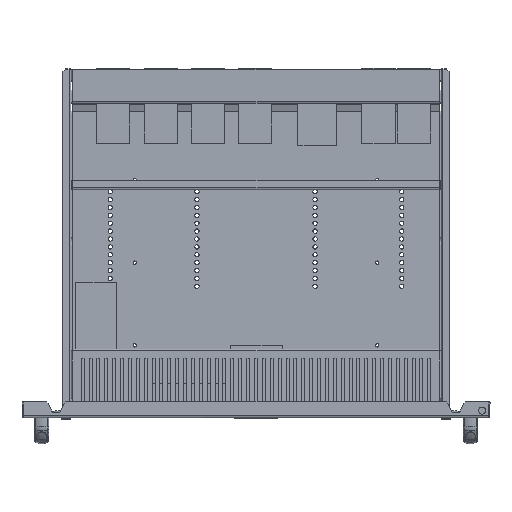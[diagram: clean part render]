
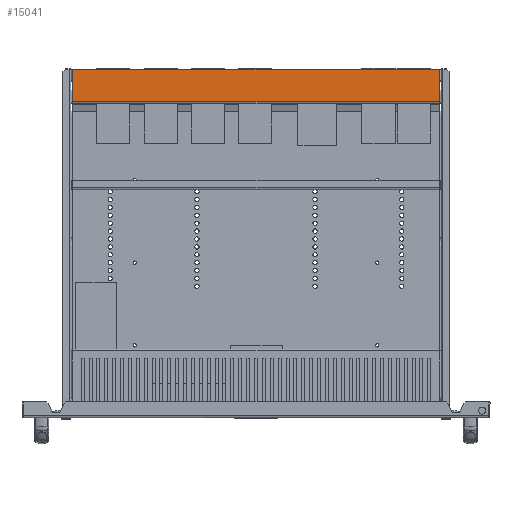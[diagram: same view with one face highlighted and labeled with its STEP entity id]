
A CAD part, top view. The second image highlights one B-rep face of the part: STEP entity #15041.
In plain terms, the highlighted planar face has unit normal (0, 0, 1) as drawn and (0, 1, 0) by its records, which use the part's own axes.
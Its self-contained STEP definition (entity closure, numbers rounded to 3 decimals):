
#11176=CARTESIAN_POINT(' ',(232.793,57.5,-2.1));
#11181=DIRECTION(' ',(-1.,0.,0.));
#11186=VECTOR(' ',#11181,1.);
#11191=LINE('',#11176,#11186);
#11196=CARTESIAN_POINT(' ',(232.793,57.5,-2.1));
#11197=VERTEX_POINT(' ',#11196);
#11201=CARTESIAN_POINT(' ',(-232.793,57.5,-2.1));
#11202=VERTEX_POINT(' ',#11201);
#11206=EDGE_CURVE(' ',#11197,#11202,#11191,.T.);
#14831=DIRECTION(' ',(-0.,1.,0.));
#14836=CARTESIAN_POINT(' ',(-232.793,57.5,-43.5));
#14841=DIRECTION(' ',(0.,0.,1.));
#14846=AXIS2_PLACEMENT_3D(' ',#14836,#14831,#14841);
#14851=PLANE('NONE',#14846);
#14856=ORIENTED_EDGE(' ',*,*,#11206,.F.);
#14861=CARTESIAN_POINT(' ',(232.793,57.5,-2.1));
#14866=DIRECTION(' ',(0.,0.,-1.));
#14871=VECTOR(' ',#14866,1.);
#14876=LINE('',#14861,#14871);
#14881=CARTESIAN_POINT(' ',(232.793,57.5,-28.5));
#14882=VERTEX_POINT(' ',#14881);
#14886=EDGE_CURVE(' ',#11197,#14882,#14876,.T.);
#14891=ORIENTED_EDGE(' ',*,*,#14886,.T.);
#14896=CARTESIAN_POINT(' ',(232.793,57.5,-28.5));
#14901=DIRECTION(' ',(0.,0.,-1.));
#14906=VECTOR(' ',#14901,1.);
#14911=LINE('',#14896,#14906);
#14916=CARTESIAN_POINT(' ',(232.793,57.5,-43.5));
#14917=VERTEX_POINT(' ',#14916);
#14921=EDGE_CURVE(' ',#14882,#14917,#14911,.T.);
#14926=ORIENTED_EDGE(' ',*,*,#14921,.T.);
#14931=CARTESIAN_POINT(' ',(232.793,57.5,-43.5));
#14936=DIRECTION(' ',(-1.,0.,0.));
#14941=VECTOR(' ',#14936,1.);
#14946=LINE('',#14931,#14941);
#14951=CARTESIAN_POINT(' ',(-232.793,57.5,-43.5));
#14952=VERTEX_POINT(' ',#14951);
#14956=EDGE_CURVE(' ',#14917,#14952,#14946,.T.);
#14961=ORIENTED_EDGE(' ',*,*,#14956,.T.);
#14966=CARTESIAN_POINT(' ',(-232.793,57.5,-43.5));
#14971=DIRECTION(' ',(0.,0.,1.));
#14976=VECTOR(' ',#14971,1.);
#14981=LINE('',#14966,#14976);
#14986=CARTESIAN_POINT(' ',(-232.793,57.5,-28.5));
#14987=VERTEX_POINT(' ',#14986);
#14991=EDGE_CURVE(' ',#14952,#14987,#14981,.T.);
#14996=ORIENTED_EDGE(' ',*,*,#14991,.T.);
#15001=CARTESIAN_POINT(' ',(-232.793,57.5,-28.5));
#15006=DIRECTION(' ',(0.,0.,1.));
#15011=VECTOR(' ',#15006,1.);
#15016=LINE('',#15001,#15011);
#15021=EDGE_CURVE(' ',#14987,#11202,#15016,.T.);
#15026=ORIENTED_EDGE(' ',*,*,#15021,.T.);
#15031=EDGE_LOOP(' ',(#14856,#14891,#14926,#14961,#14996,#15026));
#15036=FACE_OUTER_BOUND(' ',#15031,.T.);
#15041=ADVANCED_FACE('NONE',(#15036),#14851,.T.);
